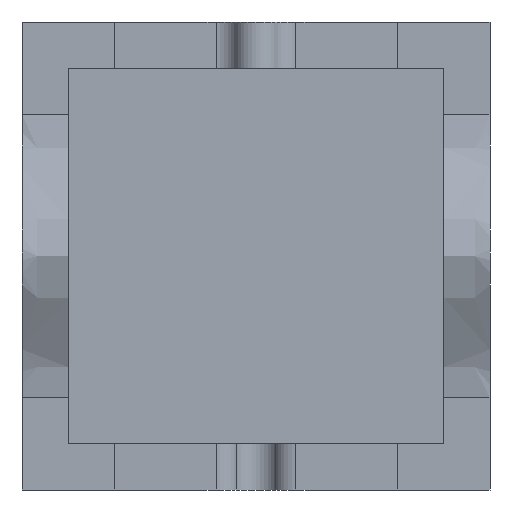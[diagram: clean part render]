
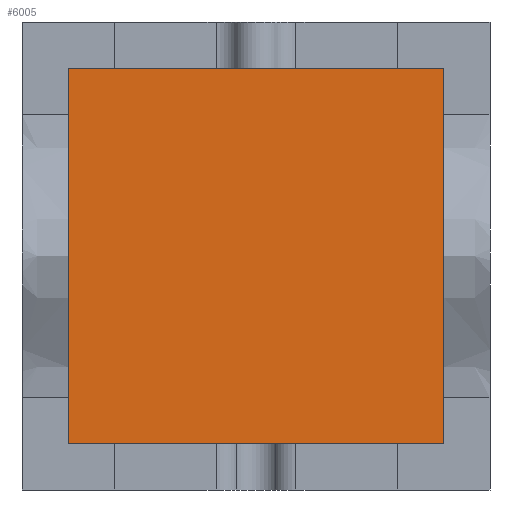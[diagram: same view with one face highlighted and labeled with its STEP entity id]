
A CAD part, front view. The second image highlights one B-rep face of the part: STEP entity #6005.
In plain terms, the highlighted planar face has unit normal (0, -1, 0).
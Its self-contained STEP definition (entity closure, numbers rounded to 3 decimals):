
#5879=CARTESIAN_POINT('Vertex',(-20.,-30.,-20.)) ;
#5884=CARTESIAN_POINT('Line Origine',(-20.,-30.,61.5)) ;
#5888=CARTESIAN_POINT('Vertex',(-20.,-30.,143.)) ;
#5915=CARTESIAN_POINT('Line Origine',(61.5,-30.,143.)) ;
#5919=CARTESIAN_POINT('Vertex',(143.,-30.,143.)) ;
#5946=CARTESIAN_POINT('Line Origine',(143.,-30.,61.5)) ;
#5950=CARTESIAN_POINT('Vertex',(143.,-30.,-20.)) ;
#5977=CARTESIAN_POINT('Line Origine',(61.5,-30.,-20.)) ;
#5994=CARTESIAN_POINT('Axis2P3D Location',(0.,-30.,0.)) ;
#5885=DIRECTION('Vector Direction',(0.,0.,-1.)) ;
#5916=DIRECTION('Vector Direction',(1.,0.,0.)) ;
#5947=DIRECTION('Vector Direction',(0.,0.,1.)) ;
#5978=DIRECTION('Vector Direction',(-1.,0.,0.)) ;
#5995=DIRECTION('Axis2P3D Direction',(0.,1.,0.)) ;
#5996=DIRECTION('Axis2P3D XDirection',(-1.,0.,0.)) ;
#5997=AXIS2_PLACEMENT_3D('Plane Axis2P3D',#5994,#5995,#5996) ;
#6000=ORIENTED_EDGE('',*,*,#5981,.F.) ;
#6001=ORIENTED_EDGE('',*,*,#5952,.F.) ;
#6002=ORIENTED_EDGE('',*,*,#5921,.F.) ;
#6003=ORIENTED_EDGE('',*,*,#5890,.F.) ;
#5886=VECTOR('Line Direction',#5885,1.) ;
#5917=VECTOR('Line Direction',#5916,1.) ;
#5948=VECTOR('Line Direction',#5947,1.) ;
#5979=VECTOR('Line Direction',#5978,1.) ;
#6005=ADVANCED_FACE('Cavity-molde',(#6004),#5998,.F.) ;
#5890=EDGE_CURVE('',#5880,#5889,#5887,.F.) ;
#5921=EDGE_CURVE('',#5889,#5920,#5918,.T.) ;
#5952=EDGE_CURVE('',#5920,#5951,#5949,.F.) ;
#5981=EDGE_CURVE('',#5951,#5880,#5980,.T.) ;
#5999=EDGE_LOOP('',(#6000,#6001,#6002,#6003)) ;
#6004=FACE_OUTER_BOUND('',#5999,.T.) ;
#5887=LINE('Line',#5884,#5886) ;
#5918=LINE('Line',#5915,#5917) ;
#5949=LINE('Line',#5946,#5948) ;
#5980=LINE('Line',#5977,#5979) ;
#5998=PLANE('',#5997) ;
#5880=VERTEX_POINT('',#5879) ;
#5889=VERTEX_POINT('',#5888) ;
#5920=VERTEX_POINT('',#5919) ;
#5951=VERTEX_POINT('',#5950) ;
